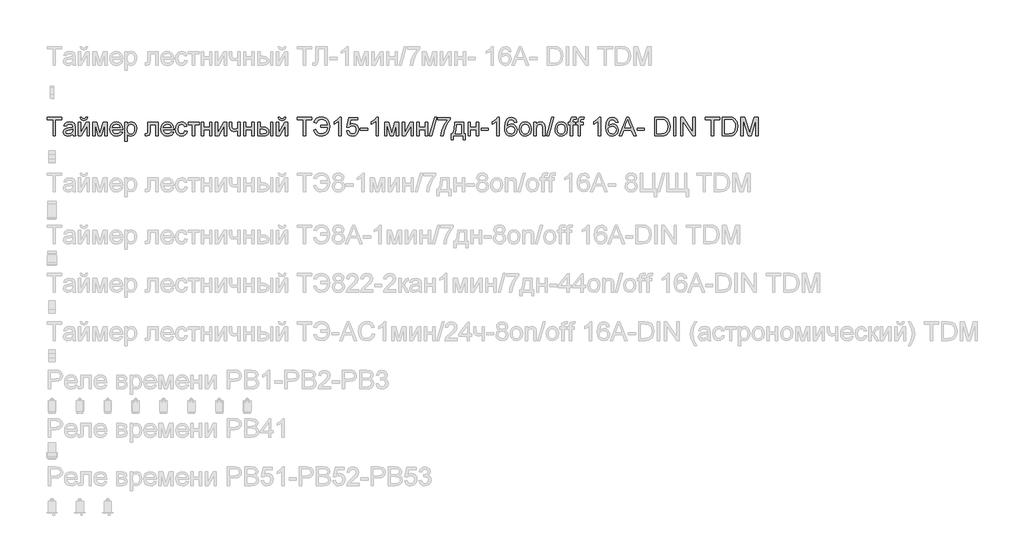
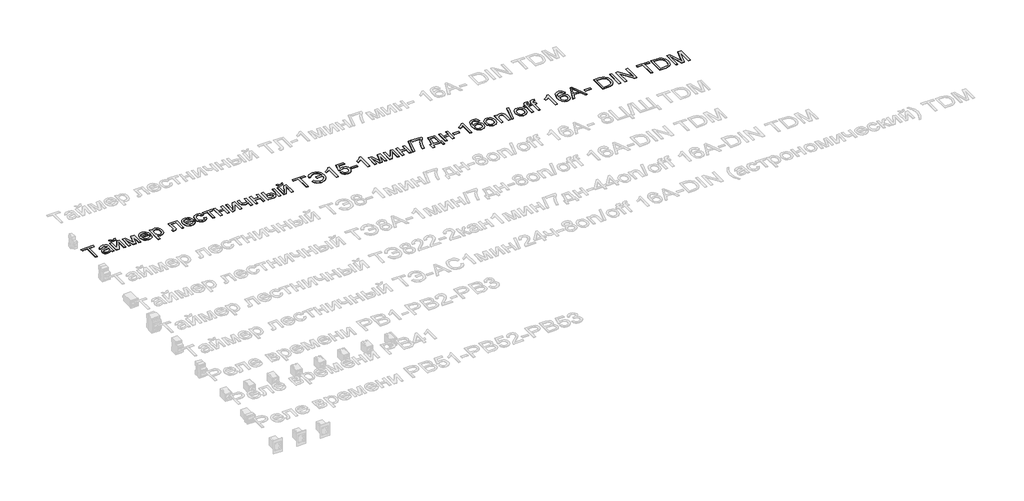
# One storey, part 34 of 34: 1 proxy.
"""IFC4 building model written with IfcOpenShell, lengths in millimetres."""

import ifcopenshell
import ifcopenshell.guid

model = None  # the IFC model being written
_history = None  # IfcOwnerHistory: only IFC2X3 demands one
_inside = {}  # id of a spatial element -> (the spatial element, [elements in it])
_under = {}  # id of a project, library or spatial element -> (it, [spatial elements below it])
_declared = {}  # id of a project -> (the project, [libraries it declares])
_typed = {}  # id of a type object -> (the type object, [elements of that type])
_made_of = {}  # id of a material, layer set ... -> (it, [elements and type objects made of it])


def new_model(schema):
    """Start an empty IFC model of exactly this schema.

    Asked for "IFC4X3", IfcOpenShell would pick the latest addendum, in which some entities
    have other attributes; the version numbers below select the first issue.
    IFC2X3 requires an IfcOwnerHistory on every rooted entity: one is made here for all.
    """
    global model, _history
    if schema == "IFC4X3":
        model = ifcopenshell.file(schema_version=(4, 3, 0, 0))
    else:
        model = ifcopenshell.file(schema=schema)
    _inside.clear()
    _under.clear()
    _declared.clear()
    _typed.clear()
    _made_of.clear()
    _history = None
    if model.schema == "IFC2X3":
        org = make("IfcOrganization", Name="unknown")
        user = make(
            "IfcPersonAndOrganization",
            ThePerson=make("IfcPerson", FamilyName="unknown"),
            TheOrganization=org,
        )
        app = make(
            "IfcApplication",
            ApplicationDeveloper=org,
            Version="unknown",
            ApplicationFullName="unknown",
            ApplicationIdentifier="unknown",
        )
        _history = make(
            "IfcOwnerHistory",
            OwningUser=user,
            OwningApplication=app,
            ChangeAction="ADDED",
            CreationDate=0,
        )
    return model


def make(cls, **values):
    """One entity of the class cls with the attributes given. An attribute that is None is left unset."""
    return model.create_entity(
        cls, **{name: value for name, value in values.items() if value is not None}
    )


def rooted(cls, **values):
    """An entity with a GlobalId (a new one), such as an element, a storey or a relation."""
    return make(cls, GlobalId=ifcopenshell.guid.new(), OwnerHistory=_history, **values)


def si_unit(unit_type, name, prefix=None):
    """IfcSIUnit, for example si_unit("LENGTHUNIT", "METRE", prefix="MILLI")."""
    return make("IfcSIUnit", UnitType=unit_type, Prefix=prefix, Name=name)


def assignment(units):
    """IfcUnitAssignment: the units of a project."""
    return None if units is None else make("IfcUnitAssignment", Units=units)


def point(xyz):
    """IfcCartesianPoint."""
    return None if xyz is None else make("IfcCartesianPoint", Coordinates=xyz)


def direction(xyz):
    """IfcDirection."""
    return None if xyz is None else make("IfcDirection", DirectionRatios=xyz)


def frame(location, z_axis=None, x_axis=None):
    """IfcAxis2Placement3D, a coordinate frame: its origin and axes. An axis left out is left unset."""
    return make(
        "IfcAxis2Placement3D",
        Location=point(location),
        Axis=direction(z_axis),
        RefDirection=direction(x_axis),
    )


def origin():
    """The frame at (0, 0, 0) with its axes left unset."""
    return frame((0.0, 0.0, 0.0))


def place(relative_to, where):
    """IfcLocalPlacement: puts the frame where relative to a parent placement (None: the world)."""
    return make(
        "IfcLocalPlacement", PlacementRelTo=relative_to, RelativePlacement=where
    )


def context(
    kind, dimensions, precision=None, world=None, true_north=None, identifier=None
):
    """IfcGeometricRepresentationContext, for example the 3D "Model" context."""
    return make(
        "IfcGeometricRepresentationContext",
        ContextIdentifier=identifier,
        ContextType=kind,
        CoordinateSpaceDimension=dimensions,
        Precision=precision,
        WorldCoordinateSystem=world,
        TrueNorth=true_north,
    )


def project(units=None, contexts=None):
    """IfcProject with its units and contexts."""
    return rooted(
        "IfcProject",
        Name="project",
        RepresentationContexts=contexts,
        UnitsInContext=assignment(units),
    )


def spatial(cls, under=None, at=None, **own):
    """A site, building, storey or space (cls), placed at a placement, below another one or the project."""
    s = rooted(cls, ObjectPlacement=at, **own)
    if under is not None:
        _under.setdefault(under.id(), (under, []))[1].append(s)
    return s


def polyline(points):
    """IfcPolyline through the points."""
    return make("IfcPolyline", Points=[point(p) for p in points])


def outline(outer, holes=None, kind="AREA"):
    """IfcArbitraryClosedProfileDef: a profile drawn as a closed curve; with holes, ...WithVoids."""
    if holes is None:
        return make("IfcArbitraryClosedProfileDef", ProfileType=kind, OuterCurve=outer)
    return make(
        "IfcArbitraryProfileDefWithVoids",
        ProfileType=kind,
        OuterCurve=outer,
        InnerCurves=holes,
    )


def extrude(swept, where, along, depth):
    """IfcExtrudedAreaSolid: the profile swept, set in the frame where, extruded along a direction by depth."""
    return make(
        "IfcExtrudedAreaSolid",
        SweptArea=swept,
        Position=where,
        ExtrudedDirection=direction(along),
        Depth=depth,
    )


def shape(context_of_items, identifier, shape_type, items):
    """IfcShapeRepresentation: the items that make up one representation, for example the "Body"."""
    return make(
        "IfcShapeRepresentation",
        ContextOfItems=context_of_items,
        RepresentationIdentifier=identifier,
        RepresentationType=shape_type,
        Items=items,
    )


def made_of(thing, what):
    """Note that an element or type object is made of a material, layer set ...; save() writes the relation."""
    if what is not None:
        _made_of.setdefault(what.id(), (what, []))[1].append(thing)
    return thing


def element(
    cls,
    number,
    at=None,
    inside=None,
    cuts=None,
    type_object=None,
    material=None,
    context=None,
    identifier="Body",
    shape_type=None,
    held_by="IfcProductDefinitionShape",
    body=None,
    shapes=None,
    **own,
):
    """One element of the class cls, such as IfcWall. Its Tag is "e" and its number.

    at: its placement. inside: the storey or other place that contains it. cuts: it is an
    opening in that element (IfcRelVoidsElement). A single representation is given by context,
    identifier, shape_type and body (its items); several are given by shapes. held_by: the class
    of the entity that holds the representations. save() writes the other relations.
    """
    e = rooted(cls, Tag="e%d" % number, ObjectPlacement=at, **own)
    if body is not None:
        shapes = [shape(context, identifier, shape_type, body)]
    if shapes is not None:
        e.Representation = make(held_by, Representations=shapes)
    if inside is not None:
        _inside.setdefault(inside.id(), (inside, []))[1].append(e)
    if cuts is not None:
        rooted(
            "IfcRelVoidsElement", RelatingBuildingElement=cuts, RelatedOpeningElement=e
        )
    if type_object is not None:
        _typed.setdefault(type_object.id(), (type_object, []))[1].append(e)
    return made_of(e, material)


def aggregate(whole, parts):
    """IfcRelAggregates: a whole, such as a stair, and the parts it consists of."""
    return rooted("IfcRelAggregates", RelatingObject=whole, RelatedObjects=parts)


def save(model, path):
    """Write the relations noted so far, then the file.

    IfcRelAggregates (storeys below a building ...), IfcRelContainedInSpatialStructure (elements
    in a storey), IfcRelDefinesByType, IfcRelAssociatesMaterial and IfcRelDeclares: one each for
    every whole, place, type object, material and project.
    """
    for whole, parts in _under.values():
        aggregate(whole, parts)
    for where, things in _inside.values():
        rooted(
            "IfcRelContainedInSpatialStructure",
            RelatedElements=things,
            RelatingStructure=where,
        )
    for kind, things in _typed.values():
        rooted("IfcRelDefinesByType", RelatedObjects=things, RelatingType=kind)
    for what, things in _made_of.values():
        rooted("IfcRelAssociatesMaterial", RelatedObjects=things, RelatingMaterial=what)
    for by, libraries in _declared.values():
        rooted("IfcRelDeclares", RelatingContext=by, RelatedDefinitions=libraries)
    model.write(path)


model = new_model("IFC4")

# Units and contexts
model_context = context("Model", 3, world=origin())
ifc_project = project(units=[si_unit("LENGTHUNIT", "METRE", prefix="MILLI")], contexts=[model_context])

# Site, building, storey
site = spatial("IfcSite", under=ifc_project)
building = spatial("IfcBuilding", under=site)
storey = spatial("IfcBuildingStorey", under=building, Name="Этаж 01", Elevation=0.0)

# Proxy
placement = place(None, origin())
element("IfcBuildingElementProxy", 1, Name="Надпись на модели 1", ObjectType="Надпись на модели 1", at=placement, inside=storey, context=model_context, shape_type="SweptSolid", body=[
    extrude(outline(polyline([(-19013.8985135, 18156.235284), (-19013.8985135, 18244.1345554), (-19046.8607403, 18244.1345554), (-19046.8607403, 18256.6915941), (-18968.379248, 18256.6915941), (-18968.379248, 18244.1345554), (-19001.3414748, 18244.1345554), (-19001.3414748, 18156.235284), (-19013.8985135, 18156.235284)])), frame((0.0, 0.0, 40.0), z_axis=(0.0, 0.0, 1.0), x_axis=(1.0, 0.0, 0.0)), (0.0, 0.0, 1.0), 2.0),
    extrude(outline(polyline([(-18908.7333139, 18165.6530631), (-18920.9102079, 18157.1427262), (-18934.3624262, 18154.6656541), (-18944.8562601, 18156.1555762), (-18952.5971104, 18160.6253425), (-18957.3703793, 18167.4127653), (-18958.9614689, 18175.8556571), (-18956.5579732, 18185.7884709), (-18950.2426656, 18192.998958), (-18941.450286, 18197.1192364), (-18930.5855044, 18199.0076973), (-18908.8068903, 18203.3241794), (-18908.7333139, 18206.1200825), (-18912.1914046, 18215.3907088), (-18926.0728186, 18219.0204778), (-18938.7770101, 18216.6047194), (-18944.8348003, 18208.0330689), (-18957.3918391, 18209.6026988), (-18951.9594483, 18221.8654319), (-18941.0210903, 18229.0513936), (-18924.4541378, 18231.5775166), (-18909.2360859, 18229.3456992), (-18900.63991, 18223.7416301), (-18896.7894117, 18215.2190306), (-18896.1762751, 18204.2316216), (-18896.1762751, 18188.6088996), (-18895.538613, 18166.7934973), (-18893.0370154, 18156.235284), (-18905.5940542, 18156.235284), (-18908.7333139, 18165.6530631)]), holes=[polyline([(-18908.7333139, 18190.7671406), (-18928.9913491, 18186.9166424), (-18939.794817, 18184.8810287), (-18944.6876475, 18181.5700907), (-18946.4044302, 18176.7385739), (-18942.6642965, 18169.9450197), (-18931.6891504, 18167.2226929), (-18918.9849588, 18170.2270625), (-18910.793453, 18177.4988633), (-18908.8068903, 18187.210948), (-18908.7333139, 18190.7671406)])]), frame((0.0, 0.0, 40.0), z_axis=(0.0, 0.0, 1.0), x_axis=(1.0, 0.0, 0.0)), (0.0, 0.0, 1.0), 2.0),
    extrude(outline(polyline([(-18878.9103468, 18230.0078868), (-18866.353308, 18230.0078868), (-18866.353308, 18173.746467), (-18835.5002713, 18230.0078868), (-18819.2644126, 18230.0078868), (-18819.2644126, 18156.235284), (-18831.8214514, 18156.235284), (-18831.8214514, 18212.1533473), (-18862.4782843, 18156.235284), (-18878.9103468, 18156.235284), (-18878.9103468, 18230.0078868)])), frame((0.0, 0.0, 40.0), z_axis=(0.0, 0.0, 1.0), x_axis=(1.0, 0.0, 0.0)), (0.0, 0.0, 1.0), 2.0),
    extrude(outline(polyline([(-18838.0999708, 18256.6915941), (-18828.6821917, 18256.6915941), (-18834.7767701, 18242.7243411), (-18848.3025648, 18237.856036), (-18862.9442682, 18242.6875529), (-18869.4925677, 18256.6915941), (-18860.0747886, 18256.6915941), (-18856.5431215, 18249.6159971), (-18849.4307362, 18247.2738151), (-18841.6316379, 18249.5424207), (-18838.0999708, 18256.6915941)])), frame((0.0, 0.0, 40.0), z_axis=(0.0, 0.0, 1.0), x_axis=(1.0, 0.0, 0.0)), (0.0, 0.0, 1.0), 2.0),
    extrude(outline(polyline([(-18800.4288545, 18230.0078868), (-18778.8219186, 18230.0078868), (-18762.169127, 18170.9505638), (-18744.2164856, 18230.0078868), (-18723.516992, 18230.0078868), (-18723.516992, 18156.235284), (-18736.0740308, 18156.235284), (-18736.0740308, 18215.6359635), (-18754.124774, 18156.235284), (-18770.6058874, 18156.235284), (-18787.8718157, 18218.4809176), (-18787.8718157, 18156.235284), (-18800.4288545, 18156.235284), (-18800.4288545, 18230.0078868)])), frame((0.0, 0.0, 40.0), z_axis=(0.0, 0.0, 1.0), x_axis=(1.0, 0.0, 0.0)), (0.0, 0.0, 1.0), 2.0),
    extrude(outline(polyline([(-18653.0308017, 18178.2101018), (-18640.7190176, 18176.640472), (-18645.1550614, 18167.3637143), (-18652.2337241, 18160.4291387), (-18661.7955903, 18156.1065253), (-18673.6812444, 18154.6656541), (-18688.4149183, 18157.1519233), (-18699.7518151, 18164.6107308), (-18706.9806963, 18176.5576985), (-18709.3903234, 18192.5084487), (-18706.9561709, 18208.9956935), (-18699.6537133, 18221.3258717), (-18688.4701006, 18229.0146054), (-18674.3924829, 18231.5775166), (-18660.753258, 18229.0207367), (-18649.8547538, 18221.3503971), (-18642.7086461, 18209.0447444), (-18640.3266102, 18192.5820251), (-18640.4001866, 18189.1975108), (-18696.8332846, 18189.1975108), (-18694.6597152, 18179.7981258), (-18689.6105348, 18172.8880756), (-18682.3234056, 18168.6390386), (-18673.4359897, 18167.2226929), (-18661.1242056, 18169.8469178), (-18653.0308017, 18178.2101018)]), holes=[polyline([(-18696.8332846, 18201.7545495), (-18652.8836489, 18201.7545495), (-18657.9113695, 18213.1343659), (-18665.2322212, 18217.5489499), (-18674.4415339, 18219.0204778), (-18689.9048404, 18214.323851), (-18694.7700798, 18208.8332123), (-18696.8332846, 18201.7545495)])]), frame((0.0, 0.0, 40.0), z_axis=(0.0, 0.0, 1.0), x_axis=(1.0, 0.0, 0.0)), (0.0, 0.0, 1.0), 2.0),
    extrude(outline(polyline([(-18627.7695714, 18127.9819468), (-18627.7695714, 18230.0078868), (-18615.2125326, 18230.0078868), (-18615.2125326, 18217.6961027), (-18606.5305175, 18228.1071631), (-18594.8073446, 18231.5775166), (-18578.890317, 18226.7214743), (-18568.4915192, 18213.036264), (-18564.9843776, 18193.6856711), (-18568.9452404, 18173.3417968), (-18580.4476841, 18159.4849083), (-18596.3279235, 18154.6656541), (-18607.2540188, 18157.890753), (-18615.2125326, 18166.0454705), (-18615.2125326, 18127.9819468), (-18627.7695714, 18127.9819468)]), holes=[polyline([(-18615.2125326, 18192.5329742), (-18613.8544349, 18181.2757851), (-18609.7801418, 18173.4031104), (-18603.7683369, 18168.7677973), (-18596.5977037, 18167.2226929), (-18589.3105745, 18168.8229796), (-18583.1454854, 18173.6238396), (-18578.9424336, 18181.7846886), (-18577.5414163, 18193.4649419), (-18578.9087111, 18204.6608173), (-18583.0105953, 18212.6438566), (-18589.0132032, 18217.4263225), (-18596.0826689, 18219.0204778), (-18603.1797257, 18217.325155), (-18609.4122598, 18212.2391864), (-18613.7624644, 18203.9219876), (-18615.2125326, 18192.5329742)])]), frame((0.0, 0.0, 40.0), z_axis=(0.0, 0.0, 1.0), x_axis=(1.0, 0.0, 0.0)), (0.0, 0.0, 1.0), 2.0),
    extrude(outline(polyline([(-18505.3384434, 18230.0078868), (-18448.8317689, 18230.0078868), (-18448.8317689, 18156.3088604), (-18461.3888077, 18156.3088604), (-18461.3888077, 18217.450848), (-18492.7814046, 18217.450848), (-18492.7814046, 18182.2568038), (-18493.6275332, 18166.0209451), (-18498.2751091, 18159.1660772), (-18509.262518, 18156.235284), (-18519.465112, 18156.8729461), (-18519.465112, 18168.7923228), (-18513.8487802, 18168.7923228), (-18508.1711348, 18169.564875), (-18505.9025291, 18172.0174216), (-18505.3384434, 18182.9680423), (-18505.3384434, 18230.0078868)])), frame((0.0, 0.0, 40.0), z_axis=(0.0, 0.0, 1.0), x_axis=(1.0, 0.0, 0.0)), (0.0, 0.0, 1.0), 2.0),
    extrude(outline(polyline([(-18378.3455787, 18178.2101018), (-18366.0337946, 18176.640472), (-18370.4698383, 18167.3637143), (-18377.548501, 18160.4291387), (-18387.1103672, 18156.1065253), (-18398.9960213, 18154.6656541), (-18413.7296952, 18157.1519233), (-18425.0665921, 18164.6107308), (-18432.2954733, 18176.5576985), (-18434.7051003, 18192.5084487), (-18432.2709478, 18208.9956935), (-18424.9684902, 18221.3258717), (-18413.7848775, 18229.0146054), (-18399.7072599, 18231.5775166), (-18386.0680349, 18229.0207367), (-18375.1695308, 18221.3503971), (-18368.023423, 18209.0447444), (-18365.6413871, 18192.5820251), (-18365.7149635, 18189.1975108), (-18422.1480616, 18189.1975108), (-18419.9744921, 18179.7981258), (-18414.9253117, 18172.8880756), (-18407.6381825, 18168.6390386), (-18398.7507667, 18167.2226929), (-18386.4389826, 18169.8469178), (-18378.3455787, 18178.2101018)]), holes=[polyline([(-18422.1480616, 18201.7545495), (-18378.1984259, 18201.7545495), (-18383.2261465, 18213.1343659), (-18390.5469982, 18217.5489499), (-18399.7563108, 18219.0204778), (-18415.2196173, 18214.323851), (-18420.0848567, 18208.8332123), (-18422.1480616, 18201.7545495)])]), frame((0.0, 0.0, 40.0), z_axis=(0.0, 0.0, 1.0), x_axis=(1.0, 0.0, 0.0)), (0.0, 0.0, 1.0), 2.0),
    extrude(outline(polyline([(-18305.995453, 18182.9189914), (-18293.4384142, 18181.3493615), (-18296.9394245, 18170.1810773), (-18303.5183809, 18161.7412512), (-18312.5560152, 18156.4345534), (-18323.4330595, 18154.6656541), (-18336.7902416, 18157.1335292), (-18347.2350246, 18164.5371544), (-18353.9764622, 18176.5515672), (-18356.223608, 18192.8518052), (-18352.3853725, 18213.7107144), (-18340.6867251, 18227.1138817), (-18323.6047378, 18231.5775166), (-18312.9944079, 18230.044675), (-18304.5116622, 18225.44615), (-18298.4262809, 18218.0271964), (-18295.008044, 18208.0330689), (-18307.5650828, 18206.4634391), (-18313.3898811, 18215.8689554), (-18323.5066359, 18219.0204778), (-18331.6214996, 18217.4692421), (-18338.0625002, 18212.8155349), (-18342.265552, 18204.8079701), (-18343.6665693, 18193.1951618), (-18342.2962088, 18181.4260036), (-18338.1851275, 18173.3908477), (-18331.8606229, 18168.7647316), (-18323.8499925, 18167.2226929), (-18312.0164549, 18171.0731911), (-18305.995453, 18182.9189914)])), frame((0.0, 0.0, 40.0), z_axis=(0.0, 0.0, 1.0), x_axis=(1.0, 0.0, 0.0)), (0.0, 0.0, 1.0), 2.0),
    extrude(outline(polyline([(-18288.7295246, 18230.0078868), (-18229.0835905, 18230.0078868), (-18229.0835905, 18217.450848), (-18252.6280382, 18217.450848), (-18252.6280382, 18156.235284), (-18265.185077, 18156.235284), (-18265.185077, 18217.450848), (-18288.7295246, 18217.450848), (-18288.7295246, 18230.0078868)])), frame((0.0, 0.0, 40.0), z_axis=(0.0, 0.0, 1.0), x_axis=(1.0, 0.0, 0.0)), (0.0, 0.0, 1.0), 2.0),
    extrude(outline(polyline([(-18218.0961816, 18230.0078868), (-18205.5391428, 18230.0078868), (-18205.5391428, 18201.7545495), (-18172.576916, 18201.7545495), (-18172.576916, 18230.0078868), (-18160.0198773, 18230.0078868), (-18160.0198773, 18156.235284), (-18172.576916, 18156.235284), (-18172.576916, 18189.1975108), (-18205.5391428, 18189.1975108), (-18205.5391428, 18156.235284), (-18218.0961816, 18156.235284), (-18218.0961816, 18230.0078868)])), frame((0.0, 0.0, 40.0), z_axis=(0.0, 0.0, 1.0), x_axis=(1.0, 0.0, 0.0)), (0.0, 0.0, 1.0), 2.0),
    extrude(outline(polyline([(-18141.1843191, 18230.0078868), (-18128.6272803, 18230.0078868), (-18128.6272803, 18173.746467), (-18097.7742437, 18230.0078868), (-18081.538385, 18230.0078868), (-18081.538385, 18156.235284), (-18094.0954237, 18156.235284), (-18094.0954237, 18212.1533473), (-18124.7522567, 18156.235284), (-18141.1843191, 18156.235284), (-18141.1843191, 18230.0078868)])), frame((0.0, 0.0, 40.0), z_axis=(0.0, 0.0, 1.0), x_axis=(1.0, 0.0, 0.0)), (0.0, 0.0, 1.0), 2.0),
    extrude(outline(polyline([(-18067.4117163, 18230.0078868), (-18054.8546776, 18230.0078868), (-18054.8546776, 18215.8566927), (-18053.8368707, 18202.5884154), (-18048.9440402, 18195.4024537), (-18039.2319555, 18192.3367705), (-18021.8924508, 18196.1382177), (-18021.8924508, 18230.0078868), (-18009.335412, 18230.0078868), (-18009.335412, 18156.235284), (-18021.8924508, 18156.235284), (-18021.8924508, 18184.0962138), (-18042.5919444, 18179.7797317), (-18056.8289776, 18184.2801548), (-18065.2044244, 18195.3043519), (-18067.4117163, 18209.6517497), (-18067.4117163, 18230.0078868)])), frame((0.0, 0.0, 40.0), z_axis=(0.0, 0.0, 1.0), x_axis=(1.0, 0.0, 0.0)), (0.0, 0.0, 1.0), 2.0),
    extrude(outline(polyline([(-17990.4998539, 18230.0078868), (-17977.9428151, 18230.0078868), (-17977.9428151, 18201.7545495), (-17944.9805884, 18201.7545495), (-17944.9805884, 18230.0078868), (-17932.4235496, 18230.0078868), (-17932.4235496, 18156.235284), (-17944.9805884, 18156.235284), (-17944.9805884, 18189.1975108), (-17977.9428151, 18189.1975108), (-17977.9428151, 18156.235284), (-17990.4998539, 18156.235284), (-17990.4998539, 18230.0078868)])), frame((0.0, 0.0, 40.0), z_axis=(0.0, 0.0, 1.0), x_axis=(1.0, 0.0, 0.0)), (0.0, 0.0, 1.0), 2.0),
    extrude(outline(polyline([(-17844.5242782, 18230.0078868), (-17831.9672394, 18230.0078868), (-17831.9672394, 18156.235284), (-17844.5242782, 18156.235284), (-17844.5242782, 18230.0078868)])), frame((0.0, 0.0, 40.0), z_axis=(0.0, 0.0, 1.0), x_axis=(1.0, 0.0, 0.0)), (0.0, 0.0, 1.0), 2.0),
    extrude(outline(polyline([(-17913.5879914, 18230.0078868), (-17901.0309527, 18230.0078868), (-17901.0309527, 18203.3241794), (-17885.5063325, 18203.3241794), (-17872.0878367, 18201.7514838), (-17862.1458258, 18197.0333973), (-17855.9929994, 18189.5500643), (-17853.9420573, 18179.6816298), (-17855.6619056, 18170.6961121), (-17860.8214506, 18163.1146773), (-17869.7579174, 18157.9551323), (-17882.8085312, 18156.235284), (-17913.5879914, 18156.235284), (-17913.5879914, 18230.0078868)]), holes=[polyline([(-17901.0309527, 18168.7923228), (-17888.1305574, 18168.7923228), (-17871.4777657, 18171.4288104), (-17866.499096, 18179.6571044), (-17870.1901787, 18187.3826263), (-17886.4873511, 18190.7671406), (-17901.0309527, 18190.7671406), (-17901.0309527, 18168.7923228)])]), frame((0.0, 0.0, 40.0), z_axis=(0.0, 0.0, 1.0), x_axis=(1.0, 0.0, 0.0)), (0.0, 0.0, 1.0), 2.0),
    extrude(outline(polyline([(-17813.1316813, 18230.0078868), (-17800.5746425, 18230.0078868), (-17800.5746425, 18173.746467), (-17769.7216059, 18230.0078868), (-17753.4857471, 18230.0078868), (-17753.4857471, 18156.235284), (-17766.0427859, 18156.235284), (-17766.0427859, 18212.1533473), (-17796.6996188, 18156.235284), (-17813.1316813, 18156.235284), (-17813.1316813, 18230.0078868)])), frame((0.0, 0.0, 40.0), z_axis=(0.0, 0.0, 1.0), x_axis=(1.0, 0.0, 0.0)), (0.0, 0.0, 1.0), 2.0),
    extrude(outline(polyline([(-17772.3213053, 18256.6915941), (-17762.9035262, 18256.6915941), (-17768.9981046, 18242.7243411), (-17782.5238993, 18237.856036), (-17797.1656027, 18242.6875529), (-17803.7139022, 18256.6915941), (-17794.2961231, 18256.6915941), (-17790.764456, 18249.6159971), (-17783.6520707, 18247.2738151), (-17775.8529724, 18249.5424207), (-17772.3213053, 18256.6915941)])), frame((0.0, 0.0, 40.0), z_axis=(0.0, 0.0, 1.0), x_axis=(1.0, 0.0, 0.0)), (0.0, 0.0, 1.0), 2.0),
    extrude(outline(polyline([(-17668.7257354, 18156.235284), (-17668.7257354, 18244.1345554), (-17701.6879622, 18244.1345554), (-17701.6879622, 18256.6915941), (-17623.2064699, 18256.6915941), (-17623.2064699, 18244.1345554), (-17656.1686967, 18244.1345554), (-17656.1686967, 18156.235284), (-17668.7257354, 18156.235284)])), frame((0.0, 0.0, 40.0), z_axis=(0.0, 0.0, 1.0), x_axis=(1.0, 0.0, 0.0)), (0.0, 0.0, 1.0), 2.0),
    extrude(outline(polyline([(-17576.1175745, 18214.3115883), (-17538.4464582, 18214.3115883), (-17541.2117045, 18227.2641002), (-17547.8397118, 18237.2306366), (-17558.0300431, 18243.5857981), (-17571.4822614, 18245.7041852), (-17589.6985515, 18240.6028882), (-17599.6620222, 18225.2989972), (-17612.219061, 18228.4382569), (-17606.8479839, 18240.933982), (-17598.0923924, 18250.3640238), (-17586.3753508, 18256.2869239), (-17572.1199235, 18258.261224), (-17558.4285819, 18256.4494052), (-17546.7851168, 18251.0139487), (-17537.5359503, 18242.7611293), (-17531.0275046, 18232.4972216), (-17525.8894194, 18207.5670851), (-17528.2132074, 18186.9748904), (-17536.7051501, 18169.9327569), (-17551.3161967, 18158.4824298), (-17571.9972962, 18154.6656541), (-17587.0252757, 18156.7257933), (-17598.9998346, 18162.9062108), (-17607.920973, 18173.2069067), (-17613.7886908, 18187.6278809), (-17601.2316521, 18190.7671406), (-17596.9887464, 18180.4664447), (-17590.4649723, 18173.1088048), (-17581.6603299, 18168.6942209), (-17570.5748191, 18167.2226929), (-17558.0545686, 18169.5342181), (-17548.0113901, 18176.4687937), (-17541.2178359, 18187.4132831), (-17538.4464582, 18201.7545495), (-17576.1175745, 18201.7545495), (-17576.1175745, 18214.3115883)])), frame((0.0, 0.0, 40.0), z_axis=(0.0, 0.0, 1.0), x_axis=(1.0, 0.0, 0.0)), (0.0, 0.0, 1.0), 2.0),
    extrude(outline(polyline([(-17466.2434853, 18156.235284), (-17478.8005241, 18156.235284), (-17478.8005241, 18234.5205726), (-17490.6953752, 18226.0470239), (-17503.9146016, 18219.7071909), (-17503.9146016, 18231.5775166), (-17485.5082391, 18243.325215), (-17474.3368892, 18256.6915941), (-17466.2434853, 18256.6915941), (-17466.2434853, 18156.235284)])), frame((0.0, 0.0, 40.0), z_axis=(0.0, 0.0, 1.0), x_axis=(1.0, 0.0, 0.0)), (0.0, 0.0, 1.0), 2.0),
    extrude(outline(polyline([(-17436.4205182, 18182.9189914), (-17423.8634795, 18184.4886212), (-17417.5359091, 18171.5514377), (-17404.4147846, 18167.2226929), (-17395.4139385, 18168.7279434), (-17388.6694352, 18173.2436949), (-17384.4571864, 18180.2487812), (-17383.0531035, 18189.2220362), (-17388.313816, 18204.1335198), (-17394.9203635, 18208.235404), (-17404.2185809, 18209.6026988), (-17415.242778, 18207.4199323), (-17422.2938496, 18201.7545495), (-17434.8508884, 18203.3241794), (-17423.8634795, 18255.1219643), (-17375.2049542, 18255.1219643), (-17375.2049542, 18242.5649255), (-17413.7099364, 18242.5649255), (-17419.0810135, 18214.9001995), (-17410.1108242, 18220.344853), (-17400.7114392, 18222.1597375), (-17388.9790693, 18219.909526), (-17379.2393934, 18213.1588914), (-17372.6818969, 18202.8704582), (-17370.4960647, 18190.0068512), (-17372.4642334, 18177.4498124), (-17378.3687394, 18166.7076581), (-17389.6749794, 18157.6761551), (-17404.4638356, 18154.6656541), (-17416.7970795, 18156.6001003), (-17426.6225944, 18162.4034388), (-17433.3579006, 18171.4012192), (-17436.4205182, 18182.9189914)])), frame((0.0, 0.0, 40.0), z_axis=(0.0, 0.0, 1.0), x_axis=(1.0, 0.0, 0.0)), (0.0, 0.0, 1.0), 2.0),
    extrude(outline(polyline([(-17362.6479155, 18186.0582511), (-17362.6479155, 18198.6152898), (-17323.4071693, 18198.6152898), (-17323.4071693, 18186.0582511), (-17362.6479155, 18186.0582511)])), frame((0.0, 0.0, 40.0), z_axis=(0.0, 0.0, 1.0), x_axis=(1.0, 0.0, 0.0)), (0.0, 0.0, 1.0), 2.0),
    extrude(outline(polyline([(-17265.330865, 18156.235284), (-17277.8879038, 18156.235284), (-17277.8879038, 18234.5205726), (-17289.7827549, 18226.0470239), (-17303.0019813, 18219.7071909), (-17303.0019813, 18231.5775166), (-17284.5956188, 18243.325215), (-17273.4242689, 18256.6915941), (-17265.330865, 18256.6915941), (-17265.330865, 18156.235284)])), frame((0.0, 0.0, 40.0), z_axis=(0.0, 0.0, 1.0), x_axis=(1.0, 0.0, 0.0)), (0.0, 0.0, 1.0), 2.0),
    extrude(outline(polyline([(-17232.3686382, 18230.0078868), (-17210.7617024, 18230.0078868), (-17194.1089107, 18170.9505638), (-17176.1562694, 18230.0078868), (-17155.4567758, 18230.0078868), (-17155.4567758, 18156.235284), (-17168.0138145, 18156.235284), (-17168.0138145, 18215.6359635), (-17186.0645578, 18156.235284), (-17202.5456712, 18156.235284), (-17219.8115995, 18218.4809176), (-17219.8115995, 18156.235284), (-17232.3686382, 18156.235284), (-17232.3686382, 18230.0078868)])), frame((0.0, 0.0, 40.0), z_axis=(0.0, 0.0, 1.0), x_axis=(1.0, 0.0, 0.0)), (0.0, 0.0, 1.0), 2.0),
    extrude(outline(polyline([(-17136.6212176, 18230.0078868), (-17124.0641789, 18230.0078868), (-17124.0641789, 18173.746467), (-17093.2111422, 18230.0078868), (-17076.9752835, 18230.0078868), (-17076.9752835, 18156.235284), (-17089.5323222, 18156.235284), (-17089.5323222, 18212.1533473), (-17120.1891552, 18156.235284), (-17136.6212176, 18156.235284), (-17136.6212176, 18230.0078868)])), frame((0.0, 0.0, 40.0), z_axis=(0.0, 0.0, 1.0), x_axis=(1.0, 0.0, 0.0)), (0.0, 0.0, 1.0), 2.0),
    extrude(outline(polyline([(-17058.1397253, 18230.0078868), (-17045.5826865, 18230.0078868), (-17045.5826865, 18201.7545495), (-17012.6204598, 18201.7545495), (-17012.6204598, 18230.0078868), (-17000.063421, 18230.0078868), (-17000.063421, 18156.235284), (-17012.6204598, 18156.235284), (-17012.6204598, 18189.1975108), (-17045.5826865, 18189.1975108), (-17045.5826865, 18156.235284), (-17058.1397253, 18156.235284), (-17058.1397253, 18230.0078868)])), frame((0.0, 0.0, 40.0), z_axis=(0.0, 0.0, 1.0), x_axis=(1.0, 0.0, 0.0)), (0.0, 0.0, 1.0), 2.0),
    extrude(outline(polyline([(-16990.6456419, 18156.235284), (-16962.3923047, 18256.6915941), (-16951.0615393, 18256.6915941), (-16979.3148765, 18156.235284), (-16990.6456419, 18156.235284)])), frame((0.0, 0.0, 40.0), z_axis=(0.0, 0.0, 1.0), x_axis=(1.0, 0.0, 0.0)), (0.0, 0.0, 1.0), 2.0),
    extrude(outline(polyline([(-16945.1263764, 18242.5649255), (-16945.1263764, 18255.1219643), (-16879.2019229, 18255.1219643), (-16879.2019229, 18244.9684212), (-16897.9025909, 18217.9536201), (-16912.2132006, 18183.532128), (-16916.8730392, 18156.235284), (-16929.4300779, 18156.235284), (-16924.4391455, 18184.5621976), (-16910.7416726, 18216.5801939), (-16891.7589616, 18242.5649255), (-16945.1263764, 18242.5649255)])), frame((0.0, 0.0, 40.0), z_axis=(0.0, 0.0, 1.0), x_axis=(1.0, 0.0, 0.0)), (0.0, 0.0, 1.0), 2.0),
    extrude(outline(polyline([(-16854.0878453, 18230.0078868), (-16806.9989499, 18230.0078868), (-16806.9989499, 18168.7923228), (-16797.5811709, 18168.7923228), (-16797.5811709, 18135.830096), (-16810.1382096, 18135.830096), (-16810.1382096, 18156.235284), (-16861.9359946, 18156.235284), (-16861.9359946, 18135.830096), (-16874.4930333, 18135.830096), (-16874.4930333, 18168.7923228), (-16866.6448841, 18168.7923228), (-16856.9450622, 18192.7414406), (-16854.0878453, 18230.0078868)]), holes=[polyline([(-16843.1004364, 18217.450848), (-16846.0434924, 18188.8418915), (-16852.5182155, 18168.7923228), (-16819.5559887, 18168.7923228), (-16819.5559887, 18217.450848), (-16843.1004364, 18217.450848)])]), frame((0.0, 0.0, 40.0), z_axis=(0.0, 0.0, 1.0), x_axis=(1.0, 0.0, 0.0)), (0.0, 0.0, 1.0), 2.0),
    extrude(outline(polyline([(-16783.4545022, 18230.0078868), (-16770.8974635, 18230.0078868), (-16770.8974635, 18201.7545495), (-16737.9352367, 18201.7545495), (-16737.9352367, 18230.0078868), (-16725.3781979, 18230.0078868), (-16725.3781979, 18156.235284), (-16737.9352367, 18156.235284), (-16737.9352367, 18189.1975108), (-16770.8974635, 18189.1975108), (-16770.8974635, 18156.235284), (-16783.4545022, 18156.235284), (-16783.4545022, 18230.0078868)])), frame((0.0, 0.0, 40.0), z_axis=(0.0, 0.0, 1.0), x_axis=(1.0, 0.0, 0.0)), (0.0, 0.0, 1.0), 2.0),
    extrude(outline(polyline([(-16712.8211592, 18186.0582511), (-16712.8211592, 18198.6152898), (-16673.580413, 18198.6152898), (-16673.580413, 18186.0582511), (-16712.8211592, 18186.0582511)])), frame((0.0, 0.0, 40.0), z_axis=(0.0, 0.0, 1.0), x_axis=(1.0, 0.0, 0.0)), (0.0, 0.0, 1.0), 2.0),
    extrude(outline(polyline([(-16615.5041087, 18156.235284), (-16628.0611475, 18156.235284), (-16628.0611475, 18234.5205726), (-16639.9559987, 18226.0470239), (-16653.175225, 18219.7071909), (-16653.175225, 18231.5775166), (-16634.7688625, 18243.325215), (-16623.5975126, 18256.6915941), (-16615.5041087, 18256.6915941), (-16615.5041087, 18156.235284)])), frame((0.0, 0.0, 40.0), z_axis=(0.0, 0.0, 1.0), x_axis=(1.0, 0.0, 0.0)), (0.0, 0.0, 1.0), 2.0),
    extrude(outline(polyline([(-16521.326318, 18230.0078868), (-16533.8833567, 18228.4382569), (-16538.6412972, 18238.910631), (-16551.2228614, 18244.1345554), (-16562.5536269, 18241.0933975), (-16571.1252774, 18229.676793), (-16574.6937327, 18207.2973049), (-16563.6204847, 18217.3159579), (-16549.8984862, 18220.5901077), (-16538.2979407, 18218.3521589), (-16528.5613305, 18211.6383125), (-16521.9578487, 18201.3805362), (-16519.7566881, 18188.5107977), (-16523.9014919, 18171.1835557), (-16535.3058338, 18158.9208226), (-16551.7624217, 18154.6656541), (-16566.008652, 18157.4860828), (-16577.3547458, 18165.9473687), (-16584.7767651, 18180.8833777), (-16587.2507715, 18203.1279756), (-16584.5039193, 18228.13782), (-16576.2633626, 18245.2382014), (-16565.0123049, 18253.8282459), (-16550.4380465, 18256.6915941), (-16539.4199807, 18254.9196292), (-16530.5969442, 18249.6037344), (-16524.4165267, 18241.1608426), (-16521.326318, 18230.0078868)]), holes=[polyline([(-16574.6937327, 18188.7070014), (-16571.787465, 18177.8299571), (-16564.0619431, 18169.9327569), (-16552.7434403, 18167.2226929), (-16544.4568984, 18168.6267759), (-16537.9423214, 18172.8390247), (-16533.7208755, 18179.4609006), (-16532.3137269, 18188.0938648), (-16533.7024814, 18196.3804067), (-16537.868745, 18202.69878), (-16544.4936866, 18206.6994967), (-16553.2584751, 18208.0330689), (-16568.4520015, 18202.69878), (-16573.1332999, 18196.5336909), (-16574.6937327, 18188.7070014)])]), frame((0.0, 0.0, 40.0), z_axis=(0.0, 0.0, 1.0), x_axis=(1.0, 0.0, 0.0)), (0.0, 0.0, 1.0), 2.0),
    extrude(outline(polyline([(-16508.7692792, 18193.1215854), (-16506.0530838, 18210.9086798), (-16497.9044976, 18223.4105363), (-16487.8367937, 18229.5357715), (-16475.7825269, 18231.5775166), (-16462.5908917, 18229.0912475), (-16452.0541383, 18221.63244), (-16445.1471538, 18209.7897054), (-16442.8448256, 18194.151655), (-16446.9160531, 18171.8089551), (-16458.774116, 18159.1660772), (-16475.7825269, 18154.6656541), (-16489.1335777, 18157.1427262), (-16499.6580684, 18164.5739426), (-16506.4914765, 18176.6649975), (-16508.7692792, 18193.1215854)]), holes=[polyline([(-16496.2122404, 18193.1461108), (-16494.7591065, 18181.7816229), (-16490.3997049, 18173.6851533), (-16483.8391426, 18168.838308), (-16475.7825269, 18167.2226929), (-16467.7626995, 18168.8475051), (-16461.2143999, 18173.7219415), (-16456.8549983, 18181.92571), (-16455.4018644, 18193.5385183), (-16456.8641953, 18204.5719125), (-16461.2511881, 18212.5580175), (-16467.8086847, 18217.4048627), (-16475.7825269, 18219.0204778), (-16483.8391426, 18217.4109941), (-16490.3997049, 18212.5825429), (-16494.7591065, 18204.5044674), (-16496.2122404, 18193.1461108)])]), frame((0.0, 0.0, 40.0), z_axis=(0.0, 0.0, 1.0), x_axis=(1.0, 0.0, 0.0)), (0.0, 0.0, 1.0), 2.0),
    extrude(outline(polyline([(-16428.718157, 18156.235284), (-16428.718157, 18230.0078868), (-16416.1611183, 18230.0078868), (-16416.1611183, 18219.7071909), (-16406.5593982, 18228.6099352), (-16393.4505364, 18231.5775166), (-16381.5924735, 18229.1862836), (-16373.4990696, 18222.9077643), (-16369.7344105, 18213.6739262), (-16369.0722229, 18201.5338203), (-16369.0722229, 18156.235284), (-16381.6292617, 18156.235284), (-16381.6292617, 18199.8415632), (-16383.0762642, 18210.9515994), (-16388.1898239, 18216.8254486), (-16396.8105253, 18219.0204778), (-16410.4344219, 18214.0908591), (-16414.7294442, 18206.947817), (-16416.1611183, 18195.3779283), (-16416.1611183, 18156.235284), (-16428.718157, 18156.235284)])), frame((0.0, 0.0, 40.0), z_axis=(0.0, 0.0, 1.0), x_axis=(1.0, 0.0, 0.0)), (0.0, 0.0, 1.0), 2.0),
    extrude(outline(polyline([(-16361.2240737, 18156.235284), (-16332.9707364, 18256.6915941), (-16321.639971, 18256.6915941), (-16349.8933082, 18156.235284), (-16361.2240737, 18156.235284)])), frame((0.0, 0.0, 40.0), z_axis=(0.0, 0.0, 1.0), x_axis=(1.0, 0.0, 0.0)), (0.0, 0.0, 1.0), 2.0),
    extrude(outline(polyline([(-16315.7048081, 18193.1215854), (-16312.9886127, 18210.9086798), (-16304.8400265, 18223.4105363), (-16294.7723226, 18229.5357715), (-16282.7180559, 18231.5775166), (-16269.5264207, 18229.0912475), (-16258.9896672, 18221.63244), (-16252.0826827, 18209.7897054), (-16249.7803546, 18194.151655), (-16253.851582, 18171.8089551), (-16265.709645, 18159.1660772), (-16282.7180559, 18154.6656541), (-16296.0691066, 18157.1427262), (-16306.5935974, 18164.5739426), (-16313.4270054, 18176.6649975), (-16315.7048081, 18193.1215854)]), holes=[polyline([(-16303.1477693, 18193.1461108), (-16301.6946355, 18181.7816229), (-16297.3352338, 18173.6851533), (-16290.7746716, 18168.838308), (-16282.7180559, 18167.2226929), (-16274.6982284, 18168.8475051), (-16268.1499289, 18173.7219415), (-16263.7905272, 18181.92571), (-16262.3373933, 18193.5385183), (-16263.7997243, 18204.5719125), (-16268.1867171, 18212.5580175), (-16274.7442136, 18217.4048627), (-16282.7180559, 18219.0204778), (-16290.7746716, 18217.4109941), (-16297.3352338, 18212.5825429), (-16301.6946355, 18204.5044674), (-16303.1477693, 18193.1461108)])]), frame((0.0, 0.0, 40.0), z_axis=(0.0, 0.0, 1.0), x_axis=(1.0, 0.0, 0.0)), (0.0, 0.0, 1.0), 2.0),
    extrude(outline(polyline([(-16191.7040503, 18156.235284), (-16191.7040503, 18217.450848), (-16202.6914592, 18217.450848), (-16202.6914592, 18230.0078868), (-16191.7040503, 18230.0078868), (-16191.7040503, 18237.4391031), (-16190.3796751, 18247.9114772), (-16183.9540029, 18255.3917444), (-16171.2988623, 18258.261224), (-16159.8454695, 18256.8877979), (-16161.6848795, 18245.115574), (-16168.919892, 18245.7041852), (-16176.8293549, 18243.6195206), (-16179.1470115, 18235.8449477), (-16179.1470115, 18230.0078868), (-16165.0203429, 18230.0078868), (-16165.0203429, 18217.450848), (-16179.1470115, 18217.450848), (-16179.1470115, 18156.235284), (-16191.7040503, 18156.235284)])), frame((0.0, 0.0, 40.0), z_axis=(0.0, 0.0, 1.0), x_axis=(1.0, 0.0, 0.0)), (0.0, 0.0, 1.0), 2.0),
    extrude(outline(polyline([(-16232.5144263, 18156.235284), (-16232.5144263, 18217.450848), (-16243.5018352, 18217.450848), (-16243.5018352, 18230.0078868), (-16232.5144263, 18230.0078868), (-16232.5144263, 18237.4391031), (-16231.1900511, 18247.9114772), (-16224.7643789, 18255.3917444), (-16212.1092383, 18258.261224), (-16200.6558455, 18256.8877979), (-16202.4952555, 18245.115574), (-16209.730268, 18245.7041852), (-16217.6397309, 18243.6195206), (-16219.9573875, 18235.8449477), (-16219.9573875, 18230.0078868), (-16205.8307189, 18230.0078868), (-16205.8307189, 18217.450848), (-16219.9573875, 18217.450848), (-16219.9573875, 18156.235284), (-16232.5144263, 18156.235284)])), frame((0.0, 0.0, 40.0), z_axis=(0.0, 0.0, 1.0), x_axis=(1.0, 0.0, 0.0)), (0.0, 0.0, 1.0), 2.0),
    extrude(outline(polyline([(-16070.8425521, 18156.235284), (-16083.3995909, 18156.235284), (-16083.3995909, 18234.5205726), (-16095.2944421, 18226.0470239), (-16108.5136684, 18219.7071909), (-16108.5136684, 18231.5775166), (-16090.1073059, 18243.325215), (-16078.935956, 18256.6915941), (-16070.8425521, 18256.6915941), (-16070.8425521, 18156.235284)])), frame((0.0, 0.0, 40.0), z_axis=(0.0, 0.0, 1.0), x_axis=(1.0, 0.0, 0.0)), (0.0, 0.0, 1.0), 2.0),
    extrude(outline(polyline([(-15976.6647614, 18230.0078868), (-15989.2218001, 18228.4382569), (-15993.9797406, 18238.910631), (-16006.5613048, 18244.1345554), (-16017.8920703, 18241.0933975), (-16026.4637208, 18229.676793), (-16030.0321761, 18207.2973049), (-16018.9589281, 18217.3159579), (-16005.2369297, 18220.5901077), (-15993.6363841, 18218.3521589), (-15983.8997739, 18211.6383125), (-15977.2962921, 18201.3805362), (-15975.0951315, 18188.5107977), (-15979.2399353, 18171.1835557), (-15990.6442772, 18158.9208226), (-16007.1008651, 18154.6656541), (-16021.3470954, 18157.4860828), (-16032.6931892, 18165.9473687), (-16040.1152085, 18180.8833777), (-16042.5892149, 18203.1279756), (-16039.8423627, 18228.13782), (-16031.601806, 18245.2382014), (-16020.3507483, 18253.8282459), (-16005.7764899, 18256.6915941), (-15994.7584242, 18254.9196292), (-15985.9353876, 18249.6037344), (-15979.7549701, 18241.1608426), (-15976.6647614, 18230.0078868)]), holes=[polyline([(-16030.0321761, 18188.7070014), (-16027.1259084, 18177.8299571), (-16019.4003865, 18169.9327569), (-16008.0818837, 18167.2226929), (-15999.7953418, 18168.6267759), (-15993.2807648, 18172.8390247), (-15989.0593189, 18179.4609006), (-15987.6521703, 18188.0938648), (-15989.0409248, 18196.3804067), (-15993.2071884, 18202.69878), (-15999.83213, 18206.6994967), (-16008.5969185, 18208.0330689), (-16023.7904449, 18202.69878), (-16028.4717433, 18196.5336909), (-16030.0321761, 18188.7070014)])]), frame((0.0, 0.0, 40.0), z_axis=(0.0, 0.0, 1.0), x_axis=(1.0, 0.0, 0.0)), (0.0, 0.0, 1.0), 2.0),
    extrude(outline(polyline([(-15971.0974805, 18156.235284), (-15930.998343, 18256.6915941), (-15920.3052397, 18256.6915941), (-15880.2061022, 18156.235284), (-15893.4743795, 18156.235284), (-15904.9768232, 18187.6278809), (-15946.351285, 18187.6278809), (-15957.8292032, 18156.235284), (-15971.0974805, 18156.235284)]), holes=[polyline([(-15941.7404973, 18200.1849197), (-15909.5630854, 18200.1849197), (-15918.6129825, 18224.8820643), (-15925.6517914, 18244.1345554), (-15931.9057853, 18227.0403053), (-15941.7404973, 18200.1849197)])]), frame((0.0, 0.0, 40.0), z_axis=(0.0, 0.0, 1.0), x_axis=(1.0, 0.0, 0.0)), (0.0, 0.0, 1.0), 2.0),
    extrude(outline(polyline([(-15874.6388214, 18186.0582511), (-15874.6388214, 18198.6152898), (-15835.3980752, 18198.6152898), (-15835.3980752, 18186.0582511), (-15874.6388214, 18186.0582511)])), frame((0.0, 0.0, 40.0), z_axis=(0.0, 0.0, 1.0), x_axis=(1.0, 0.0, 0.0)), (0.0, 0.0, 1.0), 2.0),
    extrude(outline(polyline([(-15780.4610306, 18156.235284), (-15780.4610306, 18256.6915941), (-15745.8065467, 18256.6915941), (-15727.8784308, 18255.2445916), (-15713.1141, 18248.05863), (-15701.2192488, 18230.8908035), (-15697.2706488, 18207.0029993), (-15699.9439246, 18186.7327014), (-15706.8110552, 18172.1032607), (-15715.9835796, 18162.99205), (-15727.9887954, 18157.9520666), (-15744.1388149, 18156.235284), (-15780.4610306, 18156.235284)]), holes=[polyline([(-15767.9039918, 18168.7923228), (-15745.6839193, 18168.7923228), (-15729.521637, 18170.6072073), (-15720.2019598, 18175.7330297), (-15712.562277, 18188.2042294), (-15709.8276875, 18207.1992031), (-15711.1673911, 18220.8844133), (-15715.1865019, 18230.9889054), (-15728.2217873, 18242.1234671), (-15746.0272759, 18244.1345554), (-15767.9039918, 18244.1345554), (-15767.9039918, 18168.7923228)])]), frame((0.0, 0.0, 40.0), z_axis=(0.0, 0.0, 1.0), x_axis=(1.0, 0.0, 0.0)), (0.0, 0.0, 1.0), 2.0),
    extrude(outline(polyline([(-15678.4350906, 18156.235284), (-15678.4350906, 18256.6915941), (-15665.8780518, 18256.6915941), (-15665.8780518, 18156.235284), (-15678.4350906, 18156.235284)])), frame((0.0, 0.0, 40.0), z_axis=(0.0, 0.0, 1.0), x_axis=(1.0, 0.0, 0.0)), (0.0, 0.0, 1.0), 2.0),
    extrude(outline(polyline([(-15640.7639743, 18156.235284), (-15640.7639743, 18256.6915941), (-15627.3240187, 18256.6915941), (-15574.8395208, 18177.1064559), (-15574.8395208, 18256.6915941), (-15562.282482, 18256.6915941), (-15562.282482, 18156.235284), (-15575.7224376, 18156.235284), (-15628.2069355, 18235.8449477), (-15628.2069355, 18156.235284), (-15640.7639743, 18156.235284)])), frame((0.0, 0.0, 40.0), z_axis=(0.0, 0.0, 1.0), x_axis=(1.0, 0.0, 0.0)), (0.0, 0.0, 1.0), 2.0),
    extrude(outline(polyline([(-15475.9528405, 18156.235284), (-15475.9528405, 18244.1345554), (-15508.9150672, 18244.1345554), (-15508.9150672, 18256.6915941), (-15430.4335749, 18256.6915941), (-15430.4335749, 18244.1345554), (-15463.3958017, 18244.1345554), (-15463.3958017, 18156.235284), (-15475.9528405, 18156.235284)])), frame((0.0, 0.0, 40.0), z_axis=(0.0, 0.0, 1.0), x_axis=(1.0, 0.0, 0.0)), (0.0, 0.0, 1.0), 2.0),
    extrude(outline(polyline([(-15416.3069063, 18156.235284), (-15416.3069063, 18256.6915941), (-15381.6524224, 18256.6915941), (-15363.7243065, 18255.2445916), (-15348.9599757, 18248.05863), (-15337.0651245, 18230.8908035), (-15333.1165245, 18207.0029993), (-15335.7898003, 18186.7327014), (-15342.6569309, 18172.1032607), (-15351.8294553, 18162.99205), (-15363.8346711, 18157.9520666), (-15379.9846906, 18156.235284), (-15416.3069063, 18156.235284)]), holes=[polyline([(-15403.7498675, 18168.7923228), (-15381.529795, 18168.7923228), (-15365.3675127, 18170.6072073), (-15356.0478355, 18175.7330297), (-15348.4081527, 18188.2042294), (-15345.6735632, 18207.1992031), (-15347.0132668, 18220.8844133), (-15351.0323776, 18230.9889054), (-15364.067663, 18242.1234671), (-15381.8731516, 18244.1345554), (-15403.7498675, 18244.1345554), (-15403.7498675, 18168.7923228)])]), frame((0.0, 0.0, 40.0), z_axis=(0.0, 0.0, 1.0), x_axis=(1.0, 0.0, 0.0)), (0.0, 0.0, 1.0), 2.0),
    extrude(outline(polyline([(-15315.8505962, 18156.235284), (-15315.8505962, 18256.6915941), (-15294.2436603, 18256.6915941), (-15273.6913195, 18185.8865728), (-15269.5465157, 18171.0977166), (-15265.0583554, 18187.1128461), (-15244.8493711, 18256.6915941), (-15223.2424352, 18256.6915941), (-15223.2424352, 18156.235284), (-15235.799474, 18156.235284), (-15235.799474, 18244.1345554), (-15261.0361789, 18156.235284), (-15278.0568525, 18156.235284), (-15303.2935574, 18244.1345554), (-15303.2935574, 18156.235284), (-15315.8505962, 18156.235284)])), frame((0.0, 0.0, 40.0), z_axis=(0.0, 0.0, 1.0), x_axis=(1.0, 0.0, 0.0)), (0.0, 0.0, 1.0), 2.0),
])

save(model, "model.ifc")
